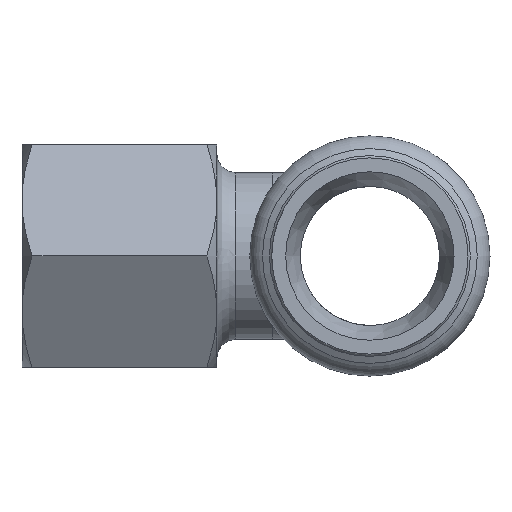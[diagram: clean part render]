
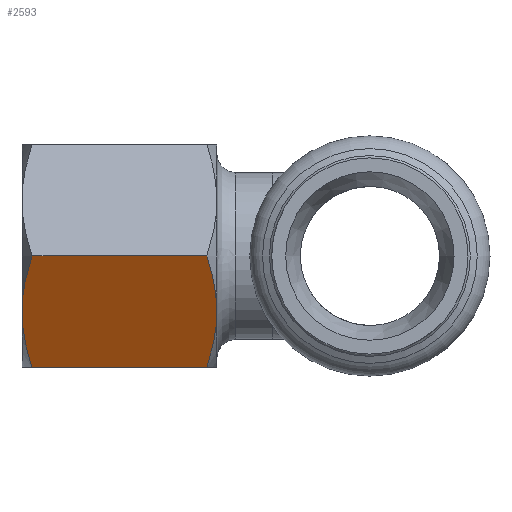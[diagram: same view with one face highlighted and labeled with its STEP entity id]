
A CAD part, left-side view. The second image highlights one B-rep face of the part: STEP entity #2593.
In plain terms, the highlighted planar face has unit normal (-0.866, 0, -0.5) as drawn and (0.866, 0.5, 0) by its records, which use the part's own axes.
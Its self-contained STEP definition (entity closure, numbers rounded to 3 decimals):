
#2070=CARTESIAN_POINT('',(6.928,12.,-7.072));
#2071=VERTEX_POINT('',#2070);
#2072=CARTESIAN_POINT('',(10.392,6.,-6.));
#2073=VERTEX_POINT('',#2072);
#2074=CARTESIAN_POINT('',(6.928,12.,-7.072));
#2075=CARTESIAN_POINT('',(8.785,8.785,-6.));
#2076=CARTESIAN_POINT('',(10.392,6.,-6.));
#2084=(BOUNDED_CURVE()B_SPLINE_CURVE(2,(#2074,#2075,#2076),.UNSPECIFIED.,.F.,.U.)B_SPLINE_CURVE_WITH_KNOTS((3,3),(0.379,1.14),.UNSPECIFIED.)CURVE()GEOMETRIC_REPRESENTATION_ITEM()RATIONAL_B_SPLINE_CURVE((1.038,1.058,1.0))REPRESENTATION_ITEM(''));
#2085=EDGE_CURVE('',#2071,#2073,#2084,.T.);
#2115=CARTESIAN_POINT('',(13.856,0.,-7.072));
#2116=VERTEX_POINT('',#2115);
#2117=CARTESIAN_POINT('',(10.392,6.,-6.));
#2118=CARTESIAN_POINT('',(12.,3.215,-6.));
#2119=CARTESIAN_POINT('',(13.856,0.,-7.072));
#2127=(BOUNDED_CURVE()B_SPLINE_CURVE(2,(#2117,#2118,#2119),.UNSPECIFIED.,.F.,.U.)B_SPLINE_CURVE_WITH_KNOTS((3,3),(1.14,1.901),.UNSPECIFIED.)CURVE()GEOMETRIC_REPRESENTATION_ITEM()RATIONAL_B_SPLINE_CURVE((1.0,1.058,1.038))REPRESENTATION_ITEM(''));
#2128=EDGE_CURVE('',#2073,#2116,#2127,.T.);
#2248=CARTESIAN_POINT('',(6.928,12.,-25.928));
#2249=VERTEX_POINT('',#2248);
#2265=CARTESIAN_POINT('',(10.392,6.,-27.0));
#2266=VERTEX_POINT('',#2265);
#2267=CARTESIAN_POINT('',(10.392,6.,-27.0));
#2268=CARTESIAN_POINT('',(8.785,8.785,-27.0));
#2269=CARTESIAN_POINT('',(6.928,12.,-25.928));
#2277=(BOUNDED_CURVE()B_SPLINE_CURVE(2,(#2267,#2268,#2269),.UNSPECIFIED.,.F.,.U.)B_SPLINE_CURVE_WITH_KNOTS((3,3),(1.317,2.103),.UNSPECIFIED.)CURVE()GEOMETRIC_REPRESENTATION_ITEM()RATIONAL_B_SPLINE_CURVE((1.0,1.065,1.052))REPRESENTATION_ITEM(''));
#2278=EDGE_CURVE('',#2266,#2249,#2277,.T.);
#2475=CARTESIAN_POINT('',(13.856,0.,-25.928));
#2476=VERTEX_POINT('',#2475);
#2497=CARTESIAN_POINT('',(13.856,0.,-25.928));
#2498=CARTESIAN_POINT('',(12.,3.215,-27.));
#2499=CARTESIAN_POINT('',(10.392,6.,-27.0));
#2507=(BOUNDED_CURVE()B_SPLINE_CURVE(2,(#2497,#2498,#2499),.UNSPECIFIED.,.F.,.U.)B_SPLINE_CURVE_WITH_KNOTS((3,3),(0.531,1.317),.UNSPECIFIED.)CURVE()GEOMETRIC_REPRESENTATION_ITEM()RATIONAL_B_SPLINE_CURVE((1.052,1.065,1.0))REPRESENTATION_ITEM(''));
#2508=EDGE_CURVE('',#2476,#2266,#2507,.T.);
#2566=CARTESIAN_POINT('',(13.856,0.,-7.072));
#2567=DIRECTION('',(0.0,0.0,-1.0));
#2568=VECTOR('',#2567,18.856);
#2569=LINE('',#2566,#2568);
#2570=EDGE_CURVE('',#2116,#2476,#2569,.T.);
#2575=CARTESIAN_POINT('',(13.856,0.,0.0));
#2576=DIRECTION('',(0.866,0.5,0.0));
#2577=DIRECTION('',(0.0,0.0,-1.0));
#2578=AXIS2_PLACEMENT_3D('',#2575,#2576,#2577);
#2579=PLANE('',#2578);
#2580=ORIENTED_EDGE('',*,*,#2085,.T.);
#2581=ORIENTED_EDGE('',*,*,#2128,.T.);
#2582=ORIENTED_EDGE('',*,*,#2570,.T.);
#2583=ORIENTED_EDGE('',*,*,#2508,.T.);
#2584=ORIENTED_EDGE('',*,*,#2278,.T.);
#2585=CARTESIAN_POINT('',(6.928,12.,-7.072));
#2586=DIRECTION('',(0.0,0.0,-1.0));
#2587=VECTOR('',#2586,18.856);
#2588=LINE('',#2585,#2587);
#2589=EDGE_CURVE('',#2071,#2249,#2588,.T.);
#2590=ORIENTED_EDGE('',*,*,#2589,.F.);
#2591=EDGE_LOOP('',(#2580,#2581,#2582,#2583,#2584,#2590));
#2592=FACE_OUTER_BOUND('',#2591,.T.);
#2593=ADVANCED_FACE('',(#2592),#2579,.T.);
